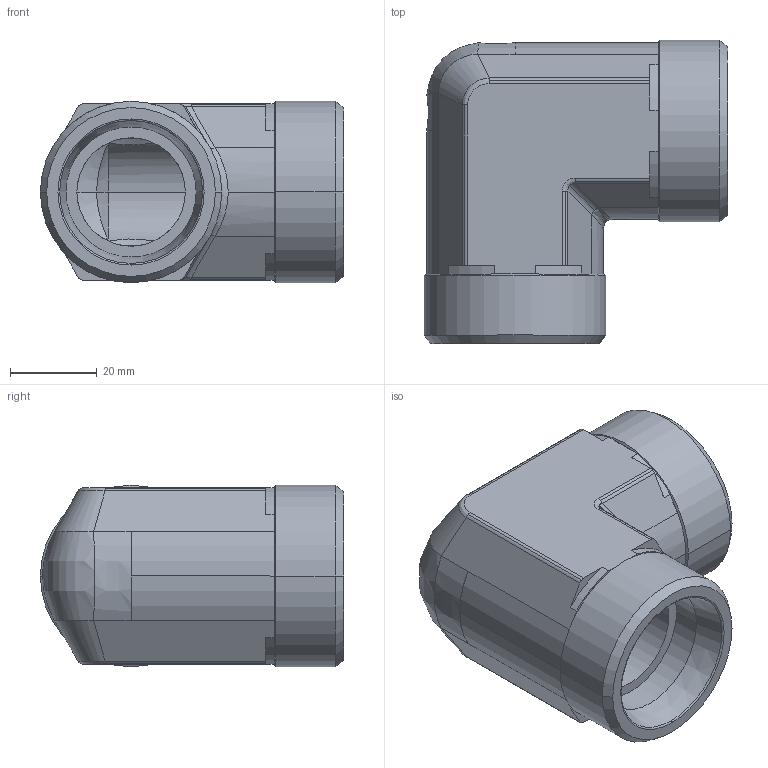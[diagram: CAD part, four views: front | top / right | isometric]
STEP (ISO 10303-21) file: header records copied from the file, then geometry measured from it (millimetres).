
FILE_DESCRIPTION((''),'2;1');
FILE_NAME('103822.stp','2007-10-31T11:51:34',(''),(''),'AutoCAD STEP 2000i','AutoCAD 2000i',', , ');
FILE_SCHEMA(('CONFIG_CONTROL_DESIGN'));
Length unit declared in the file: millimetre
Products named in the file (2): 103822.0; 3090#0
Assembly tree (1 placements, depth 2):
  103822.0
    3090#0
Bounding box: 69.91 x 69.91 x 41.82 mm (x, y, z)
Volume: 79840.2 mm3; surface area: 22552.1 mm2
Topology: 1 solids, 1 shells, 120 faces, 282 edges, 166 vertices
Faces by surface type: cylinder 52, plane 34, cone 20, bspline 14
Entity records: 4412 total; most frequent: CARTESIAN_POINT 1533, DIRECTION 621, ORIENTED_EDGE 564, EDGE_CURVE 282, AXIS2_PLACEMENT_3D 250, VERTEX_POINT 166, CIRCLE 124, EDGE_LOOP 124
